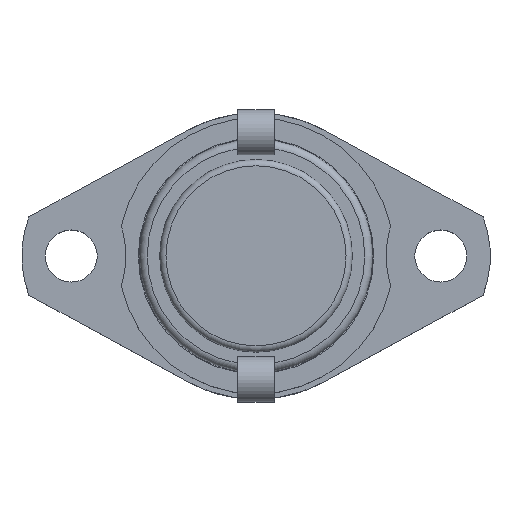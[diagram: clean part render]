
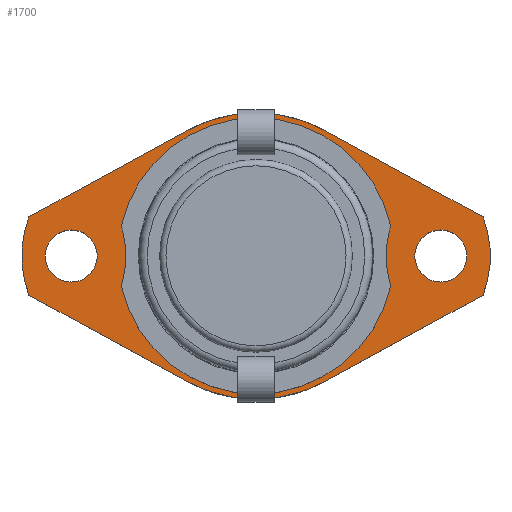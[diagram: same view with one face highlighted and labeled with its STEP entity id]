
A CAD part, top view. The second image highlights one B-rep face of the part: STEP entity #1700.
In plain terms, the highlighted planar face has unit normal (0, 0, 1).
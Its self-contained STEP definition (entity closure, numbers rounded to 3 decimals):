
#672=CARTESIAN_POINT('',(30.5,0.,0.));
#673=VERTEX_POINT('',#672);
#674=CARTESIAN_POINT('',(35.5,0.,0.0));
#675=DIRECTION('',(0.0,0.0,-1.0));
#676=DIRECTION('',(1.0,0.0,0.0));
#677=AXIS2_PLACEMENT_3D('',#674,#675,#676);
#678=CIRCLE('',#677,5.0);
#679=EDGE_CURVE('',#673,#673,#678,.T.);
#692=CARTESIAN_POINT('',(-40.5,0.,0.));
#693=VERTEX_POINT('',#692);
#694=CARTESIAN_POINT('',(-35.5,0.0,0.0));
#695=DIRECTION('',(0.0,0.0,-1.0));
#696=DIRECTION('',(1.0,0.0,0.0));
#697=AXIS2_PLACEMENT_3D('',#694,#695,#696);
#698=CIRCLE('',#697,5.0);
#699=EDGE_CURVE('',#693,#693,#698,.T.);
#1338=CARTESIAN_POINT('',(-25.858,-5.796,0.0));
#1339=VERTEX_POINT('',#1338);
#1346=CARTESIAN_POINT('',(25.858,-5.796,0.0));
#1347=VERTEX_POINT('',#1346);
#1348=CARTESIAN_POINT('',(0.0,0.0,0.));
#1349=DIRECTION('',(0.0,0.0,-1.0));
#1350=DIRECTION('',(0.976,0.219,0.0));
#1351=AXIS2_PLACEMENT_3D('',#1348,#1349,#1350);
#1352=CIRCLE('',#1351,26.5);
#1353=EDGE_CURVE('',#1347,#1339,#1352,.T.);
#1378=CARTESIAN_POINT('',(-25.858,5.796,0.0));
#1379=VERTEX_POINT('',#1378);
#1386=CARTESIAN_POINT('',(-45.0,0.0,0.));
#1387=DIRECTION('',(0.0,0.0,1.0));
#1388=DIRECTION('',(0.957,-0.29,0.0));
#1389=AXIS2_PLACEMENT_3D('',#1386,#1387,#1388);
#1390=CIRCLE('',#1389,20.0);
#1391=EDGE_CURVE('',#1339,#1379,#1390,.T.);
#1411=CARTESIAN_POINT('',(25.858,5.796,0.0));
#1412=VERTEX_POINT('',#1411);
#1419=CARTESIAN_POINT('',(0.0,0.0,0.));
#1420=DIRECTION('',(0.0,0.0,-1.0));
#1421=DIRECTION('',(-0.976,-0.219,0.0));
#1422=AXIS2_PLACEMENT_3D('',#1419,#1420,#1421);
#1423=CIRCLE('',#1422,26.5);
#1424=EDGE_CURVE('',#1379,#1412,#1423,.T.);
#1443=CARTESIAN_POINT('',(45.0,0.,0.));
#1444=DIRECTION('',(0.0,0.0,1.0));
#1445=DIRECTION('',(-0.957,0.29,0.0));
#1446=AXIS2_PLACEMENT_3D('',#1443,#1444,#1445);
#1447=CIRCLE('',#1446,20.0);
#1448=EDGE_CURVE('',#1412,#1347,#1447,.T.);
#1474=CARTESIAN_POINT('',(43.615,-7.5,0.));
#1475=VERTEX_POINT('',#1474);
#1476=CARTESIAN_POINT('',(13.19,-24.13,0.));
#1477=VERTEX_POINT('',#1476);
#1478=CARTESIAN_POINT('',(43.615,-7.5,0.0));
#1479=DIRECTION('',(-0.877,-0.48,0.0));
#1480=VECTOR('',#1479,34.674);
#1481=LINE('',#1478,#1480);
#1482=EDGE_CURVE('',#1475,#1477,#1481,.T.);
#1508=CARTESIAN_POINT('',(-13.19,-24.13,0.));
#1509=VERTEX_POINT('',#1508);
#1510=CARTESIAN_POINT('',(0.0,0.0,0.0));
#1511=DIRECTION('',(0.0,0.0,-1.0));
#1512=DIRECTION('',(0.48,0.877,0.0));
#1513=AXIS2_PLACEMENT_3D('',#1510,#1511,#1512);
#1514=CIRCLE('',#1513,27.5);
#1515=EDGE_CURVE('',#1477,#1509,#1514,.T.);
#1534=CARTESIAN_POINT('',(-43.615,-7.5,0.));
#1535=VERTEX_POINT('',#1534);
#1536=CARTESIAN_POINT('',(-13.19,-24.13,0.0));
#1537=DIRECTION('',(-0.877,0.48,0.0));
#1538=VECTOR('',#1537,34.674);
#1539=LINE('',#1536,#1538);
#1540=EDGE_CURVE('',#1509,#1535,#1539,.T.);
#1558=CARTESIAN_POINT('',(-43.615,7.5,0.));
#1559=VERTEX_POINT('',#1558);
#1560=CARTESIAN_POINT('',(-24.,0.0,0.0));
#1561=DIRECTION('',(0.0,0.0,-1.0));
#1562=DIRECTION('',(0.934,-0.357,0.0));
#1563=AXIS2_PLACEMENT_3D('',#1560,#1561,#1562);
#1564=CIRCLE('',#1563,21.0);
#1565=EDGE_CURVE('',#1535,#1559,#1564,.T.);
#1583=CARTESIAN_POINT('',(-13.19,24.13,0.));
#1584=VERTEX_POINT('',#1583);
#1585=CARTESIAN_POINT('',(-43.615,7.5,0.0));
#1586=DIRECTION('',(0.877,0.48,0.0));
#1587=VECTOR('',#1586,34.674);
#1588=LINE('',#1585,#1587);
#1589=EDGE_CURVE('',#1559,#1584,#1588,.T.);
#1610=CARTESIAN_POINT('',(13.19,24.13,0.));
#1611=VERTEX_POINT('',#1610);
#1612=CARTESIAN_POINT('',(0.0,0.0,0.0));
#1613=DIRECTION('',(0.0,0.0,-1.0));
#1614=DIRECTION('',(-0.48,-0.877,0.0));
#1615=AXIS2_PLACEMENT_3D('',#1612,#1613,#1614);
#1616=CIRCLE('',#1615,27.5);
#1617=EDGE_CURVE('',#1584,#1611,#1616,.T.);
#1636=CARTESIAN_POINT('',(43.615,7.5,0.));
#1637=VERTEX_POINT('',#1636);
#1638=CARTESIAN_POINT('',(13.19,24.13,0.0));
#1639=DIRECTION('',(0.877,-0.48,0.0));
#1640=VECTOR('',#1639,34.674);
#1641=LINE('',#1638,#1640);
#1642=EDGE_CURVE('',#1611,#1637,#1641,.T.);
#1660=CARTESIAN_POINT('',(24.,0.0,0.0));
#1661=DIRECTION('',(0.0,0.0,-1.0));
#1662=DIRECTION('',(-0.934,0.357,0.0));
#1663=AXIS2_PLACEMENT_3D('',#1660,#1661,#1662);
#1664=CIRCLE('',#1663,21.);
#1665=EDGE_CURVE('',#1637,#1475,#1664,.T.);
#1673=CARTESIAN_POINT('',(0.,0.0,0.));
#1674=DIRECTION('',(0.0,0.0,1.0));
#1675=DIRECTION('',(1.0,0.0,0.0));
#1676=AXIS2_PLACEMENT_3D('',#1673,#1674,#1675);
#1677=PLANE('',#1676);
#1678=ORIENTED_EDGE('',*,*,#1482,.F.);
#1679=ORIENTED_EDGE('',*,*,#1665,.F.);
#1680=ORIENTED_EDGE('',*,*,#1642,.F.);
#1681=ORIENTED_EDGE('',*,*,#1617,.F.);
#1682=ORIENTED_EDGE('',*,*,#1589,.F.);
#1683=ORIENTED_EDGE('',*,*,#1565,.F.);
#1684=ORIENTED_EDGE('',*,*,#1540,.F.);
#1685=ORIENTED_EDGE('',*,*,#1515,.F.);
#1686=EDGE_LOOP('',(#1678,#1679,#1680,#1681,#1682,#1683,#1684,#1685));
#1687=FACE_OUTER_BOUND('',#1686,.T.);
#1688=ORIENTED_EDGE('',*,*,#679,.T.);
#1689=EDGE_LOOP('',(#1688));
#1690=FACE_BOUND('',#1689,.T.);
#1691=ORIENTED_EDGE('',*,*,#699,.T.);
#1692=EDGE_LOOP('',(#1691));
#1693=FACE_BOUND('',#1692,.T.);
#1694=ORIENTED_EDGE('',*,*,#1353,.T.);
#1695=ORIENTED_EDGE('',*,*,#1391,.T.);
#1696=ORIENTED_EDGE('',*,*,#1424,.T.);
#1697=ORIENTED_EDGE('',*,*,#1448,.T.);
#1698=EDGE_LOOP('',(#1694,#1695,#1696,#1697));
#1699=FACE_BOUND('',#1698,.T.);
#1700=ADVANCED_FACE('',(#1687,#1690,#1693,#1699),#1677,.T.);
